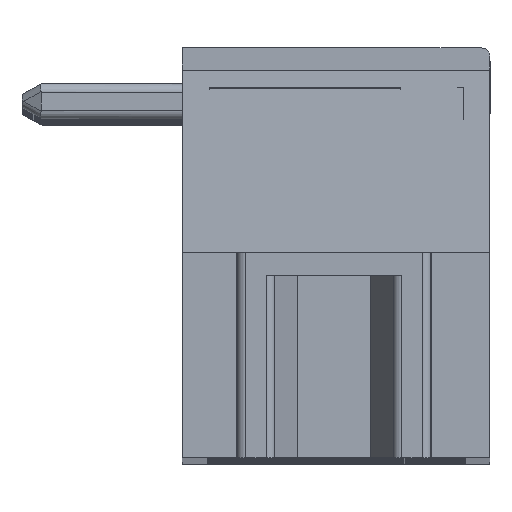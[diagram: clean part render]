
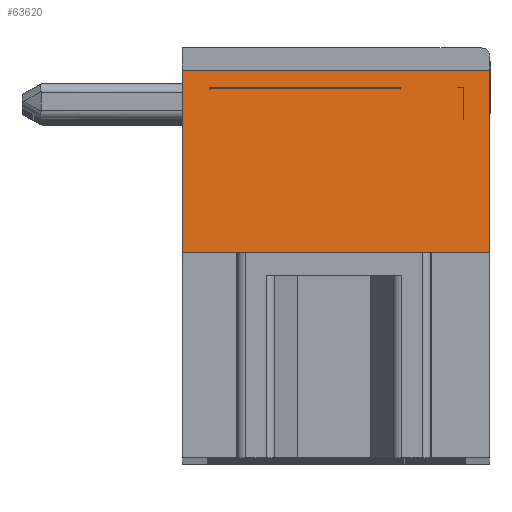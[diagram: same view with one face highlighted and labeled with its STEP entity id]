
A CAD part, top view. The second image highlights one B-rep face of the part: STEP entity #63620.
In plain terms, the highlighted planar face has unit normal (0, 0.073, 0.997).
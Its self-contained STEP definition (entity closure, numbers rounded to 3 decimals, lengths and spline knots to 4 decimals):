
#2496 = CARTESIAN_POINT ( 'NONE',  ( -6.3147, 3.3077, -0.3 ) ) ;
#2497 = CARTESIAN_POINT ( 'NONE',  ( -6.3147, 1.941, -0.2 ) ) ;
#2498 = CARTESIAN_POINT ( 'NONE',  ( -6.3147, 0.5744, -0.1 ) ) ;
#2499 = CARTESIAN_POINT ( 'NONE',  ( -6.3147, -0.7923, 0. ) ) ;
#2500 = CARTESIAN_POINT ( 'NONE',  ( -6.3147, 3.3077, -0.3 ) ) ;
#2501 = B_SPLINE_CURVE_WITH_KNOTS ( 'NONE', 3,
 ( #2499, #2498, #2497, #2496 ),
 .UNSPECIFIED., .F., .F.,
 ( 4, 4 ),
 ( 0., 1. ),
 .UNSPECIFIED. ) ;
#2542 = CARTESIAN_POINT ( 'NONE',  ( 0.5853, 3.3077, -0.3 ) ) ;
#2543 = CARTESIAN_POINT ( 'NONE',  ( 0.5853, -0.7923, 0. ) ) ;
#2660 = CARTESIAN_POINT ( 'NONE',  ( -6.3147, -0.7923, 0. ) ) ;
#2669 = CARTESIAN_POINT ( 'NONE',  ( 0.5853, -0.7923, 0. ) ) ;
#2670 = CARTESIAN_POINT ( 'NONE',  ( 0.5853, 0.5744, -0.1 ) ) ;
#2671 = CARTESIAN_POINT ( 'NONE',  ( 0.5853, 1.941, -0.2 ) ) ;
#2672 = CARTESIAN_POINT ( 'NONE',  ( 0.5853, 3.3077, -0.3 ) ) ;
#2673 = B_SPLINE_CURVE_WITH_KNOTS ( 'NONE', 3,
 ( #2672, #2671, #2670, #2669 ),
 .UNSPECIFIED., .F., .F.,
 ( 4, 4 ),
 ( 0., 1. ),
 .UNSPECIFIED. ) ;
#19983 = DIRECTION ( 'NONE',  ( -1., 0., 0. ) ) ;
#19985 = VECTOR ( 'NONE', #19983, 1000. ) ;
#19986 = CARTESIAN_POINT ( 'NONE',  ( -2.8647, -0.7923, 0. ) ) ;
#19996 = LINE ( 'NONE', #19986, #19985 ) ;
#20299 = DIRECTION ( 'NONE',  ( -1., 0., 0. ) ) ;
#20301 = VECTOR ( 'NONE', #20299, 1000. ) ;
#20303 = CARTESIAN_POINT ( 'NONE',  ( -2.8647, 3.3077, -0.3 ) ) ;
#20304 = LINE ( 'NONE', #20303, #20301 ) ;
#20318 = DIRECTION ( 'NONE',  ( 0., -0.997, 0.073 ) ) ;
#20320 = DIRECTION ( 'NONE',  ( 0., 0.073, 0.997 ) ) ;
#20322 = CARTESIAN_POINT ( 'NONE',  ( -6.3147, 3.3077, -0.3 ) ) ;
#20323 = AXIS2_PLACEMENT_3D ( 'NONE', #20322, #20320, #20318 ) ;
#20324 = PLANE ( 'NONE',  #20323 ) ;
#20327 = FACE_OUTER_BOUND ( 'NONE', #63622, .T. ) ;
#20367 = DIRECTION ( 'NONE',  ( -1., 0., 0. ) ) ;
#20369 = VECTOR ( 'NONE', #20367, 1000. ) ;
#20371 = CARTESIAN_POINT ( 'NONE',  ( -2.8647, -0.7923, 0. ) ) ;
#20373 = LINE ( 'NONE', #20371, #20369 ) ;
#22318 = DIRECTION ( 'NONE',  ( -1., 0., 0. ) ) ;
#22319 = VECTOR ( 'NONE', #22318, 1000. ) ;
#23696 = CARTESIAN_POINT ( 'NONE',  ( -1.1647, -0.7923, 0. ) ) ;
#23699 = CARTESIAN_POINT ( 'NONE',  ( -4.6647, -0.7923, 0. ) ) ;
#24167 = CARTESIAN_POINT ( 'NONE',  ( -2.8647, -0.7923, 0. ) ) ;
#24168 = LINE ( 'NONE', #24167, #22319 ) ;
#63553 = ORIENTED_EDGE ( 'NONE', *, *, #64610, .F. ) ;
#63555 = ORIENTED_EDGE ( 'NONE', *, *, #63557, .F. ) ;
#63557 = EDGE_CURVE ( 'NONE', #93568, #64611, #19996, .T. ) ;
#63620 = ADVANCED_FACE ( 'NONE', ( #20327 ), #20324, .T. ) ;
#63622 = EDGE_LOOP ( 'NONE', ( #63625, #63630, #63633, #63553, #63555, #63670 ) ) ;
#63625 = ORIENTED_EDGE ( 'NONE', *, *, #63626, .T. ) ;
#63626 = EDGE_CURVE ( 'NONE', #93569, #93546, #20304, .T. ) ;
#63630 = ORIENTED_EDGE ( 'NONE', *, *, #93544, .F. ) ;
#63633 = ORIENTED_EDGE ( 'NONE', *, *, #63634, .F. ) ;
#63634 = EDGE_CURVE ( 'NONE', #64612, #93626, #20373, .T. ) ;
#63670 = ORIENTED_EDGE ( 'NONE', *, *, #93646, .F. ) ;
#64610 = EDGE_CURVE ( 'NONE', #64611, #64612, #24168, .T. ) ;
#64611 = VERTEX_POINT ( 'NONE', #23696 ) ;
#64612 = VERTEX_POINT ( 'NONE', #23699 ) ;
#93544 = EDGE_CURVE ( 'NONE', #93626, #93546, #2501, .T. ) ;
#93546 = VERTEX_POINT ( 'NONE', #2500 ) ;
#93568 = VERTEX_POINT ( 'NONE', #2543 ) ;
#93569 = VERTEX_POINT ( 'NONE', #2542 ) ;
#93626 = VERTEX_POINT ( 'NONE', #2660 ) ;
#93646 = EDGE_CURVE ( 'NONE', #93569, #93568, #2673, .T. ) ;
